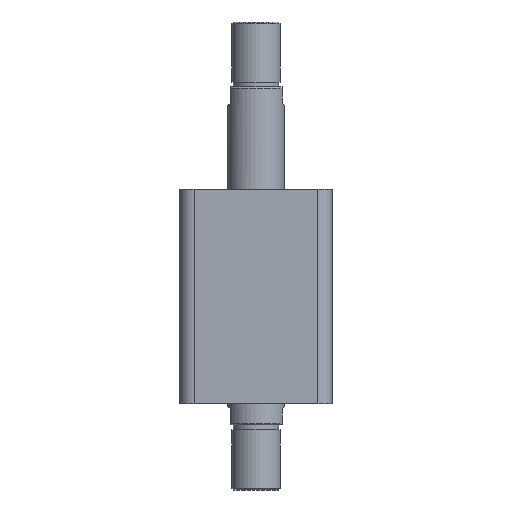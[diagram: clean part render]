
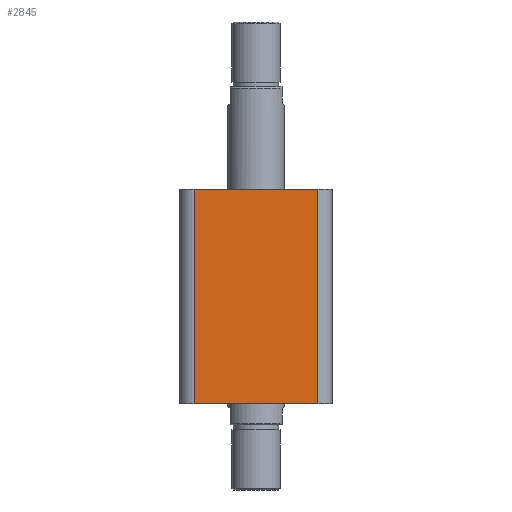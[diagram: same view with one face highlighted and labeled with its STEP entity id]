
A CAD part, front view. The second image highlights one B-rep face of the part: STEP entity #2845.
In plain terms, the highlighted planar face has unit normal (0, -1, 0).
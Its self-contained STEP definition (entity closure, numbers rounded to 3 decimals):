
#103 = CARTESIAN_POINT ( 'NONE',  ( -47., -47., 132. ) ) ;
#105 = PLANE ( 'NONE',  #3046 ) ;
#107 = DIRECTION ( 'NONE',  ( 0., 1., 0. ) ) ;
#108 = DIRECTION ( 'NONE',  ( 0., 0., 1. ) ) ;
#553 = EDGE_LOOP ( 'NONE', ( #606, #605, #604, #603 ) ) ;
#592 = VERTEX_POINT ( 'NONE', #884 ) ;
#603 = ORIENTED_EDGE ( 'NONE', *, *, #2630, .T. ) ;
#604 = ORIENTED_EDGE ( 'NONE', *, *, #2629, .T. ) ;
#605 = ORIENTED_EDGE ( 'NONE', *, *, #2628, .T. ) ;
#606 = ORIENTED_EDGE ( 'NONE', *, *, #2627, .F. ) ;
#658 = VERTEX_POINT ( 'NONE', #908 ) ;
#659 = VERTEX_POINT ( 'NONE', #909 ) ;
#884 = CARTESIAN_POINT ( 'NONE',  ( 38., -47., 132. ) ) ;
#908 = CARTESIAN_POINT ( 'NONE',  ( -38., -47., 0. ) ) ;
#909 = CARTESIAN_POINT ( 'NONE',  ( 38., -47., 0. ) ) ;
#928 = CARTESIAN_POINT ( 'NONE',  ( -38., -47., 132. ) ) ;
#1202 = CARTESIAN_POINT ( 'NONE',  ( -47., -47., 0. ) ) ;
#1212 = CARTESIAN_POINT ( 'NONE',  ( -47., -47., 132. ) ) ;
#1213 = DIRECTION ( 'NONE',  ( 1., 0., 0. ) ) ;
#1214 = CARTESIAN_POINT ( 'NONE',  ( -38., -47., 132. ) ) ;
#1215 = DIRECTION ( 'NONE',  ( 0., 0., -1. ) ) ;
#1216 = DIRECTION ( 'NONE',  ( 1., 0., 0. ) ) ;
#1217 = CARTESIAN_POINT ( 'NONE',  ( 38., -47., 132. ) ) ;
#1218 = DIRECTION ( 'NONE',  ( 0., 0., 1. ) ) ;
#1819 = VERTEX_POINT ( 'NONE', #928 ) ;
#2005 = LINE ( 'NONE', #1202, #2018 ) ;
#2011 = LINE ( 'NONE', #1212, #2014 ) ;
#2013 = LINE ( 'NONE', #1214, #2016 ) ;
#2014 = VECTOR ( 'NONE', #1213, 1000. ) ;
#2016 = VECTOR ( 'NONE', #1215, 1000. ) ;
#2017 = LINE ( 'NONE', #1217, #2020 ) ;
#2018 = VECTOR ( 'NONE', #1216, 1000. ) ;
#2020 = VECTOR ( 'NONE', #1218, 1000. ) ;
#2244 = FACE_OUTER_BOUND ( 'NONE', #553, .T. ) ;
#2627 = EDGE_CURVE ( 'NONE', #1819, #592, #2011, .T. ) ;
#2628 = EDGE_CURVE ( 'NONE', #1819, #658, #2013, .T. ) ;
#2629 = EDGE_CURVE ( 'NONE', #658, #659, #2005, .T. ) ;
#2630 = EDGE_CURVE ( 'NONE', #659, #592, #2017, .T. ) ;
#2845 = ADVANCED_FACE ( 'NONE', ( #2244 ), #105, .F. ) ;
#3046 = AXIS2_PLACEMENT_3D ( 'NONE', #103, #107, #108 ) ;
